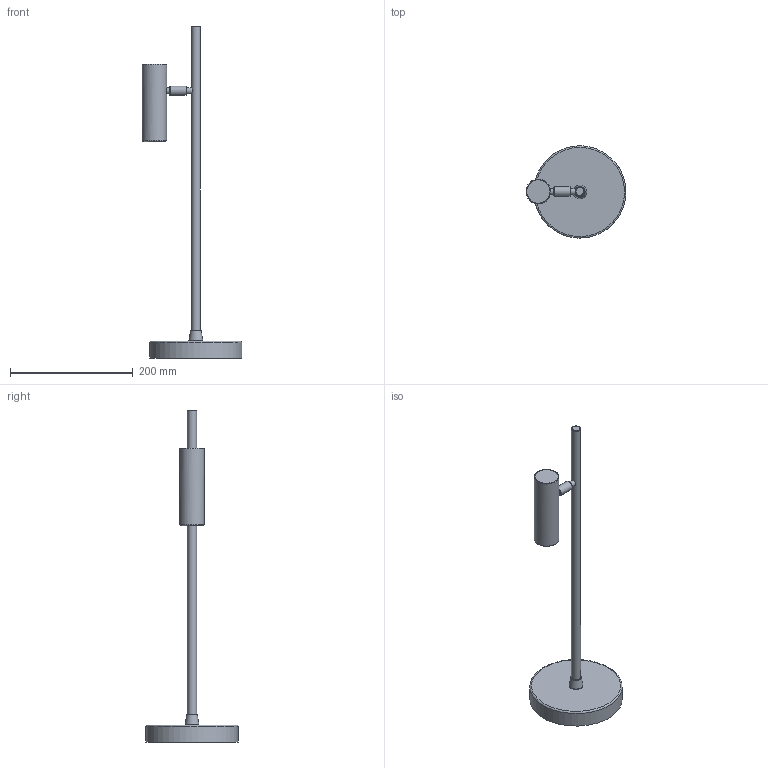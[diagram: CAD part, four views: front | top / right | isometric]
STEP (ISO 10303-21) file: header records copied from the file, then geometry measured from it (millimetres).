
FILE_DESCRIPTION ((), '1');
FILE_NAME ('C:\Users\MiCHAL\Desktop\ALDEX - Modele 3D 07.12.2022\1083B40\1097B40\1097B40.stp', '2023-01-31T18:05:34', ('Unknown'), ('Unknown'), 'HarmonyWare STEP v2.1.4', 'HarmonyWare Translators', '');
FILE_SCHEMA (('CONFIG_CONTROL_DESIGN'));
Length unit declared in the file: centimetre
Assembly tree (8 placements, depth 2):
  (unnamed)
    (unnamed)
    (unnamed)
    (unnamed)
    (unnamed)
    (unnamed)
    (unnamed)
    (unnamed)
    (unnamed)
Bounding box: 162.5 x 149.82 x 540 mm (x, y, z)
Volume: 748287.7 mm3; surface area: 125742.8 mm2
Topology: 8 solids, 8 shells, 34 faces, 55 edges, 40 vertices
Faces by surface type: bspline 34
Entity records: 3668 total; most frequent: CARTESIAN_POINT 2040, PERSON 88, ORGANIZATION 88, PERSON_AND_ORGANIZATION 88, ORIENTED_EDGE 88, CALENDAR_DATE 61, COORDINATED_UNIVERSAL_TIME_OFFSET 61, LOCAL_TIME 61
